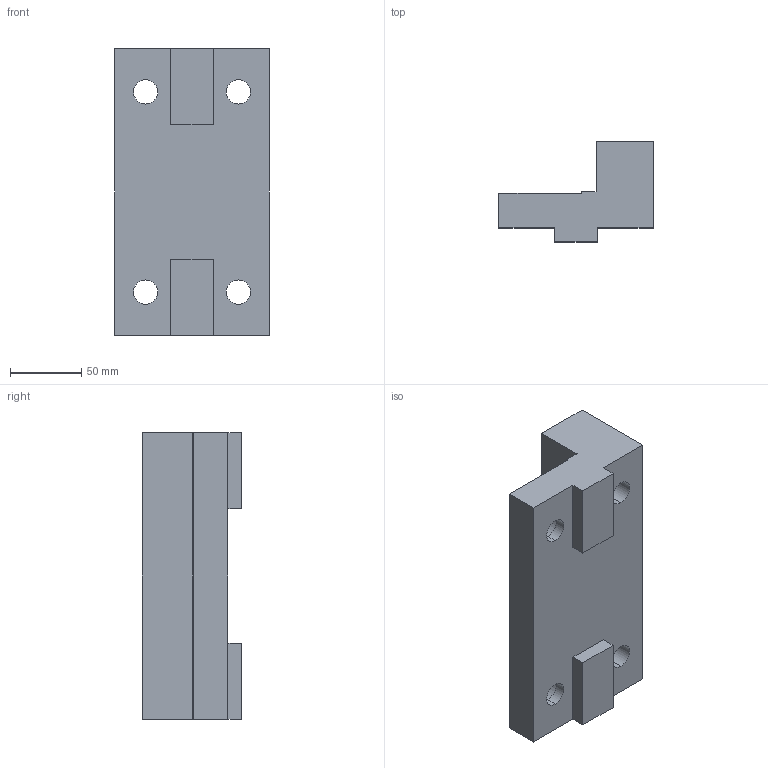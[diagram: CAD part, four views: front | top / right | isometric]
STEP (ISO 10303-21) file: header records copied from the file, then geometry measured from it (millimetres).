
FILE_DESCRIPTION (( 'STEP AP203' ), '1' );
FILE_NAME ('6921294006100.STEP', '2008-12-09T08:56:42', ( ' ' ), ( '' ), 'SwSTEP 2.0', 'SolidWorks 2008', '' );
FILE_SCHEMA (( 'CONFIG_CONTROL_DESIGN' ));
Length unit declared in the file: millimetre
Products named in the file (1): 6921294006100
Bounding box: 108 x 69.75 x 200.4 mm (x, y, z)
Volume: 785589.2 mm3; surface area: 87478.5 mm2
Topology: 1 solids, 1 shells, 38 faces, 96 edges, 64 vertices
Faces by surface type: plane 22, cylinder 16
Entity records: 1245 total; most frequent: DIRECTION 206, CARTESIAN_POINT 199, ORIENTED_EDGE 192, EDGE_CURVE 96, AXIS2_PLACEMENT_3D 71, VECTOR 64, LINE 64, VERTEX_POINT 64
